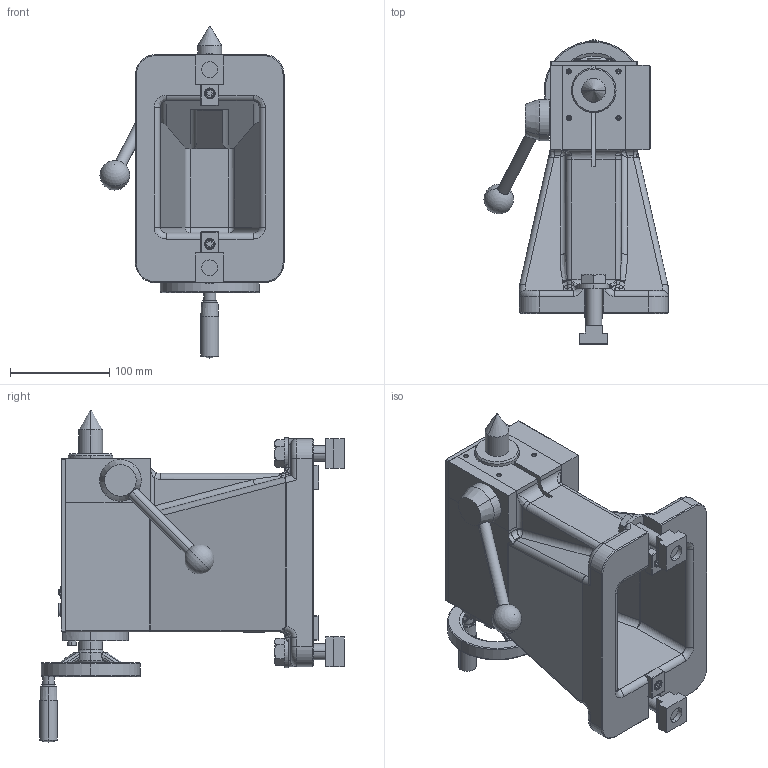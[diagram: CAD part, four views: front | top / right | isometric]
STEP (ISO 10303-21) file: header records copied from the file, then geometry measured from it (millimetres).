
FILE_DESCRIPTION (( 'STEP AP214' ), '1' );
FILE_NAME ('MR320RN／TS320RN.STEP', '2020-03-12T08:40:50', ( '' ), ( '' ), 'SwSTEP 2.0', 'SolidWorks 2017', '' );
FILE_SCHEMA (( 'AUTOMOTIVE_DESIGN' ));
Length unit declared in the file: millimetre
Products named in the file (13): MR320RN／TS320RN; CLAMPING PARTS(61E4343671)結合; MR320RNホンタイ; センタソケット; クランプレバー(61D4040541); ネームプレート(61E4736691); 僴儞僪儂僀乕儖S100(61E427915); ブラケット(61E4279093); カバー(61E449555); クランププレートＢ(61E427913); クランププレートＡ(61E427912); ガイドブロック(61M4197783); ボデー(61E2474282)MR320RN
Assembly tree (14 placements, depth 3):
  MR320RN／TS320RN
    MR320RNホンタイ
      ボデー(61E2474282)MR320RN
      ガイドブロック(61M4197783)  x2
      クランププレートＡ(61E427912)
      クランププレートＢ(61E427913)
      カバー(61E449555)
      ブラケット(61E4279093)
      僴儞僪儂僀乕儖S100(61E427915)
      ネームプレート(61E4736691)
      クランプレバー(61D4040541)
      センタソケット
    CLAMPING PARTS(61E4343671)結合  x2
Bounding box: 185.78 x 307.5 x 335.01 mm (x, y, z)
Volume: 3207612.9 mm3; surface area: 455064.5 mm2
Topology: 13 solids, 13 shells, 2131 faces, 5790 edges, 3758 vertices
Faces by surface type: plane 1694, cylinder 236, bspline 89, cone 66, torus 38, sphere 8
Entity records: 71542 total; most frequent: CARTESIAN_POINT 16062, ORIENTED_EDGE 11186, DIRECTION 9841, EDGE_CURVE 5593, LINE 4805, VECTOR 4805, VERTEX_POINT 3655, AXIS2_PLACEMENT_3D 2518
